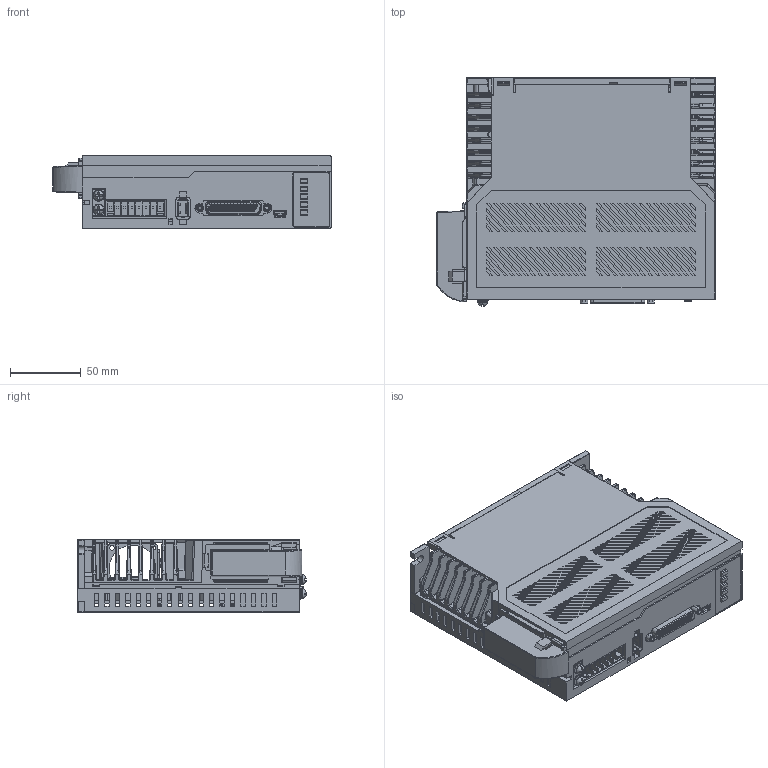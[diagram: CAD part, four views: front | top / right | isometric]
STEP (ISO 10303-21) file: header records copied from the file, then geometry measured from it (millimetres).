
FILE_DESCRIPTION((''),'2;1');
FILE_NAME('RS400-ALL_ASM','2020-08-19T',('Administrator'),(''),'PRO/ENGINEER BY PARAMETRIC TECHNOLOGY CORPORATION, 2011310','PRO/ENGINEER BY PARAMETRIC TECHNOLOGY CORPORATION, 2011310','');
FILE_SCHEMA(('CONFIG_CONTROL_DESIGN','SHAPE_APPEARANCE_LAYERS_GROUPS'));
Products named in the file (14): RS400-BOX-1; RS400-BOX-2; RS400-PCB; TRM_SRF-82; TRM_SRF-55; RS400-PCB-00_ASM; BUTTON; CLEAR-PARTS; RXLB-1A-75W-50R; MR-J3BAT; FAN-HOLDER; FAN; FAN_ASM; RS400-ALL_ASM
Assembly tree (13 placements, depth 3):
  RS400-ALL_ASM
    RS400-BOX-1
    RS400-BOX-2
    RS400-PCB-00_ASM
      RS400-PCB
      TRM_SRF-82
      TRM_SRF-55
    BUTTON
    CLEAR-PARTS
    RXLB-1A-75W-50R
    MR-J3BAT
    FAN_ASM
      FAN-HOLDER
      FAN
Bounding box: 196 x 160.99 x 51 mm (x, y, z)
Volume: 486359.9 mm3; surface area: 366507.4 mm2
Topology: 11 solids, 11 shells, 5953 faces, 15657 edges, 10099 vertices
Faces by surface type: plane 4260, cylinder 1117, bspline 225, cone 134, extrusion 81, torus 81, sphere 55
Entity records: 251069 total; most frequent: CARTESIAN_POINT 44779, ORIENTED_EDGE 31270, DIRECTION 28257, PRESENTATION_STYLE_ASSIGNMENT 17256, EDGE_CURVE 15635, STYLED_ITEM 15356, CURVE_STYLE 15346, VECTOR 12673
